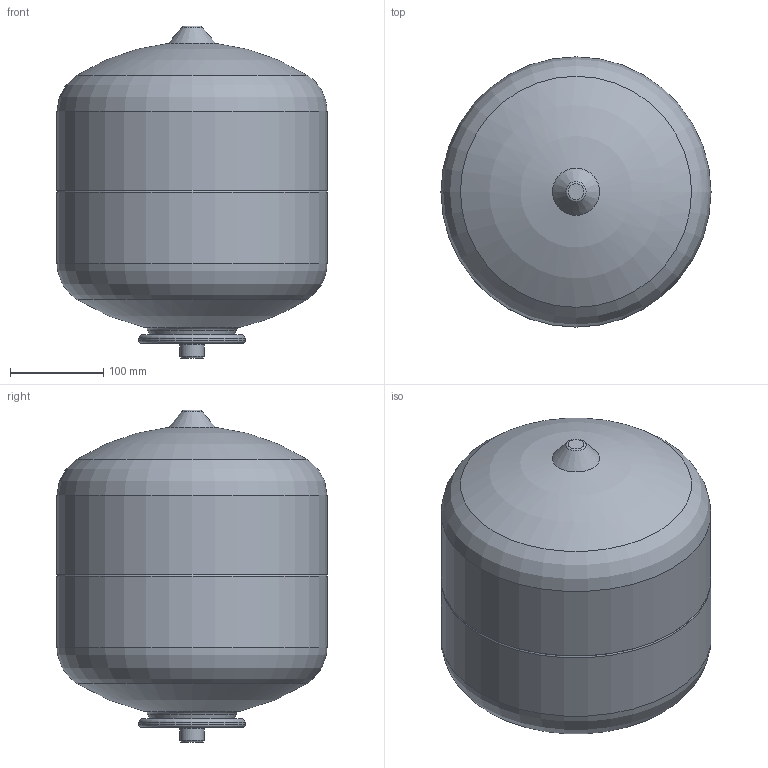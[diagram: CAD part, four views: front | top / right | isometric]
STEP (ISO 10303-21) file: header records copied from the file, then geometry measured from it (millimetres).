
FILE_DESCRIPTION(('STEP AP242'), '1');
FILE_NAME('VT.A.R.050018', '', ('UNSPECIFIED'), ('UNSPECIFIED'), 'C3D Converter', 'C3D Toolkit', '');
FILE_SCHEMA(('AP242_MANAGED_MODEL_BASED_3D_ENGINEERING_MIM_LF { 1 0 10303 442 1 1 4 }'));
Length unit declared in the file: millimetre
Bounding box: 290 x 290 x 356.52 mm (x, y, z)
Volume: 17341406 mm3; surface area: 350342.3 mm2
Topology: 1 solids, 1 shells, 40 faces, 110 edges, 78 vertices
Faces by surface type: torus 17, plane 8, cone 7, cylinder 6, sphere 2
Full cylindrical faces by diameter (mm): 20 x1, 26 x1, 78 x1, 114 x1, 290 x2
Entity records: 1224 total; most frequent: DIRECTION 238, CARTESIAN_POINT 197, ORIENTED_EDGE 156, AXIS2_PLACEMENT_3D 119, FACE_BOUND 78, EDGE_LOOP 78, EDGE_CURVE 78, VERTEX_POINT 78
